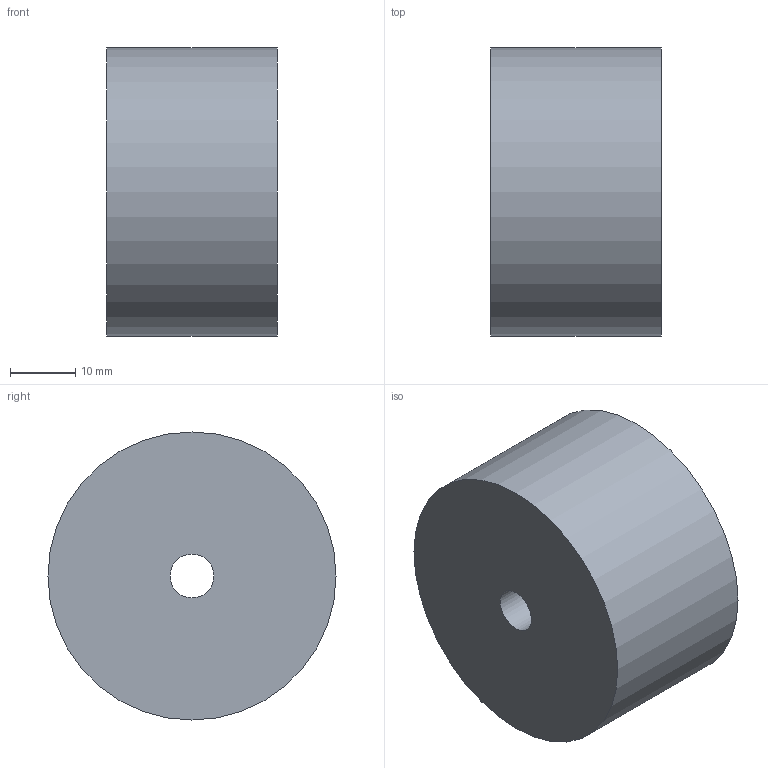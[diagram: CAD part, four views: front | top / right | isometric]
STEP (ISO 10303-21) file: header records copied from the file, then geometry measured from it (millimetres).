
FILE_DESCRIPTION(('Open CASCADE Model'),'2;1');
FILE_NAME('Open CASCADE Shape Model','2026-11-24T19:57:40',('Author'),( 'Open CASCADE'),'Open CASCADE STEP processor 7.8','Open CASCADE 7.8' ,'Unknown');
FILE_SCHEMA(('AUTOMOTIVE_DESIGN { 1 0 10303 214 1 1 1 1 }'));
Length unit declared in the file: millimetre
Products named in the file (1): Open CASCADE STEP translator 7.8 144
Bounding box: 26 x 44 x 44 mm (x, y, z)
Volume: 38614.4 mm3; surface area: 7112.4 mm2
Topology: 1 solids, 1 shells, 4 faces, 6 edges, 4 vertices
Faces by surface type: cylinder 2, plane 2
Full cylindrical faces by diameter (mm): 6.71 x1, 44 x1
Entity records: 184 total; most frequent: DIRECTION 30, CARTESIAN_POINT 29, ORIENTED_EDGE 12, PCURVE 12, DEFINITIONAL_REPRESENTATION 12, AXIS2_PLACEMENT_3D 9, CIRCLE 8, LINE 8
